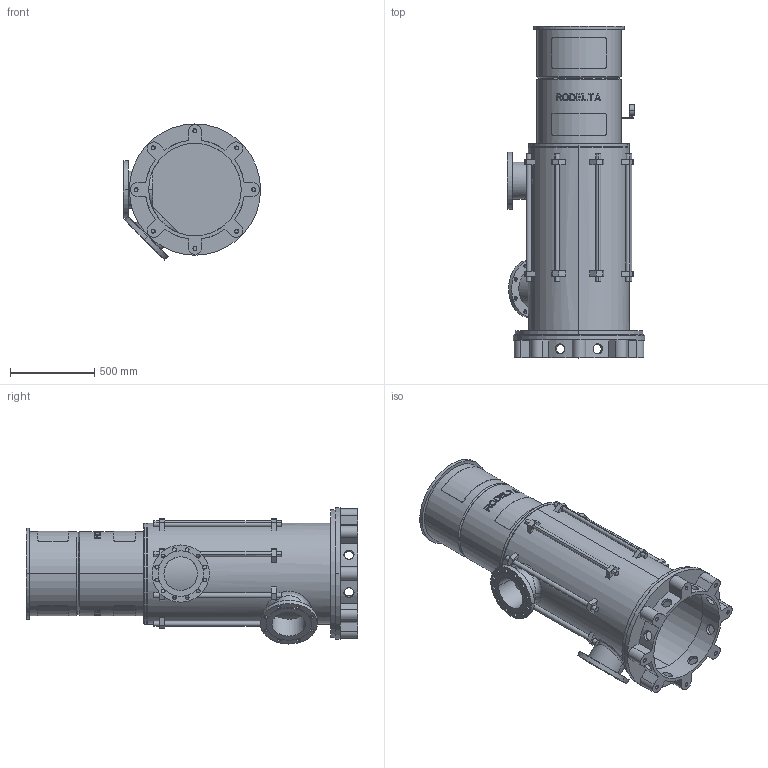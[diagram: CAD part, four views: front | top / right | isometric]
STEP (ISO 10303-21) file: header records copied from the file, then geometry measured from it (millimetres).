
FILE_DESCRIPTION((''),'2;1');
FILE_NAME('LS8_2TR_0GR','2025-10-17T12:56:36',('Lyritlocal'),(''),'CREO PARAMETRIC BY PTC INC, 2022014','CREO PARAMETRIC BY PTC INC, 2022014','');
FILE_SCHEMA(('CONFIG_CONTROL_DESIGN'));
Length unit declared in the file: millimetre
Products named in the file (1): LS8_2TR_0GR
Bounding box: 815 x 1972 x 808.61 mm (x, y, z)
Volume: 70966717.5 mm3; surface area: 9758257.7 mm2
Topology: 3 solids, 11 shells, 723 faces, 1878 edges, 1246 vertices
Faces by surface type: plane 440, cylinder 267, cone 12, bspline 4
Entity records: 23719 total; most frequent: CARTESIAN_POINT 6038, ORIENTED_EDGE 3724, DIRECTION 3488, EDGE_CURVE 1878, AXIS2_PLACEMENT_3D 1302, VERTEX_POINT 1246, EDGE_LOOP 888, VECTOR 884
